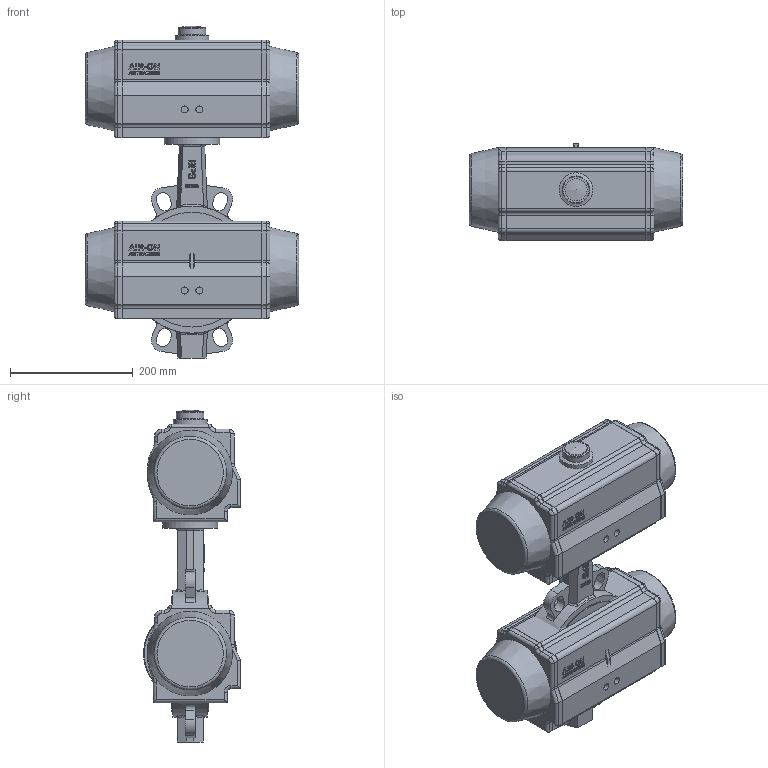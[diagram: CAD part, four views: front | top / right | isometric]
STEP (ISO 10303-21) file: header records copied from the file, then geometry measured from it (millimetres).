
FILE_DESCRIPTION( ( 'Unknown' ), '1' );
FILE_NAME( 'R:/ECCUA/ROOTSI BPS 3D vidinad/Poordklapid Wafer type/Butterfly valve(wafer) with pneumatic actuator BPS/STEP formaat/BPS 2303150PE butterfly valve DN150.stp', 'Unknown', ( 'Unknown' ), ( 'Unknown' ), 'PSStep 10.1', 'Unknown', ' ' );
FILE_SCHEMA( ( 'AUTOMOTIVE_DESIGN { 1 0 10303 214 1 1 1 1 }' ) );
Length unit declared in the file: millimetre
Products named in the file (5): Assem1; Butterfly valve wafer type DN150 BPS; BPS 8300125DA-SR pneumatic actuator
Bounding box: 348 x 158 x 541 mm (x, y, z)
Volume: 16191042.1 mm3; surface area: 1001978.2 mm2
Topology: 8 solids, 8 shells, 1008 faces, 2586 edges, 1682 vertices
Faces by surface type: plane 338, extrusion 300, cylinder 240, torus 50, bspline 44, cone 34, sphere 2
Full cylindrical faces by diameter (mm): 6.647 x8, 8.376 x8, 9 x8, 10.106 x8, 11.445 x4, 36 x2, 45 x2, 55 x2, 90 x2, 150 x2, 187 x4, 207 x2
Entity records: 23785 total; most frequent: CARTESIAN_POINT 8156, ORIENTED_EDGE 2414, DIRECTION 2046, EDGE_CURVE 1207, VERTEX_POINT 821, VECTOR 778, AXIS2_PLACEMENT_3D 634, LINE 628
